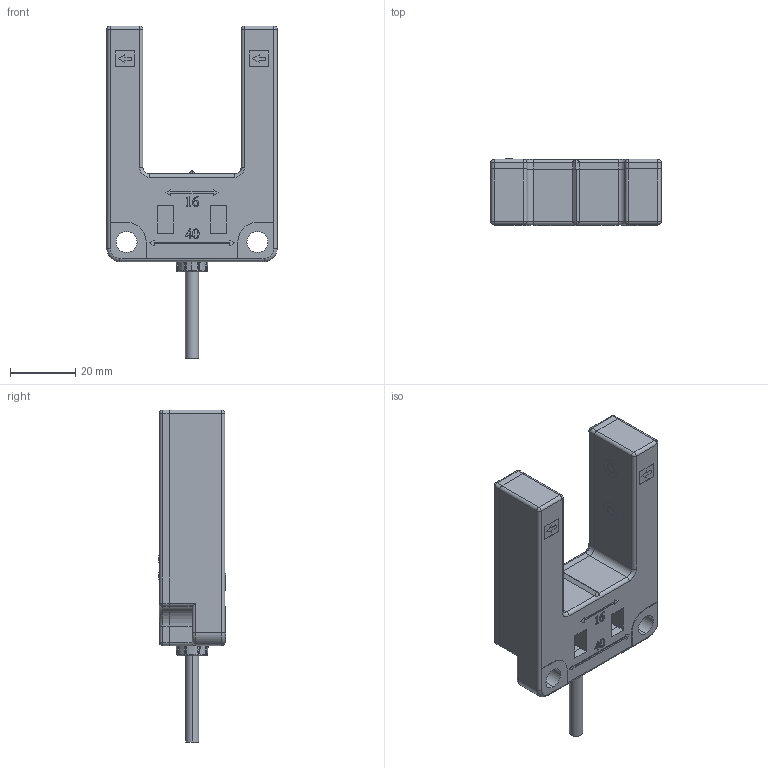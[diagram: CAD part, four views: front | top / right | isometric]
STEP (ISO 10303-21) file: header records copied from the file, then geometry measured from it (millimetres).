
FILE_DESCRIPTION (( 'STEP AP203' ), '1' );
FILE_NAME ('GE30.STEP', '2023-09-05T11:56:39', ( 'Windows User' ), ( 'P R C' ), 'SwSTEP 2.0', 'SolidWorks 2022', '' );
FILE_SCHEMA (( 'CONFIG_CONTROL_DESIGN' ));
Length unit declared in the file: millimetre
Products named in the file (1): GE30
Bounding box: 52 x 20.5 x 101.43 mm (x, y, z)
Surface area: 13439 mm2 (no closed solid volume)
Topology: 0 solids, 14 shells, 391 faces, 1224 edges, 845 vertices
Faces by surface type: plane 213, cylinder 101, bspline 46, torus 16, sphere 11, cone 4
Entity records: 15456 total; most frequent: CARTESIAN_POINT 5138, ORIENTED_EDGE 2113, DIRECTION 1893, EDGE_CURVE 1212, VERTEX_POINT 845, VECTOR 727, LINE 727, AXIS2_PLACEMENT_3D 583
